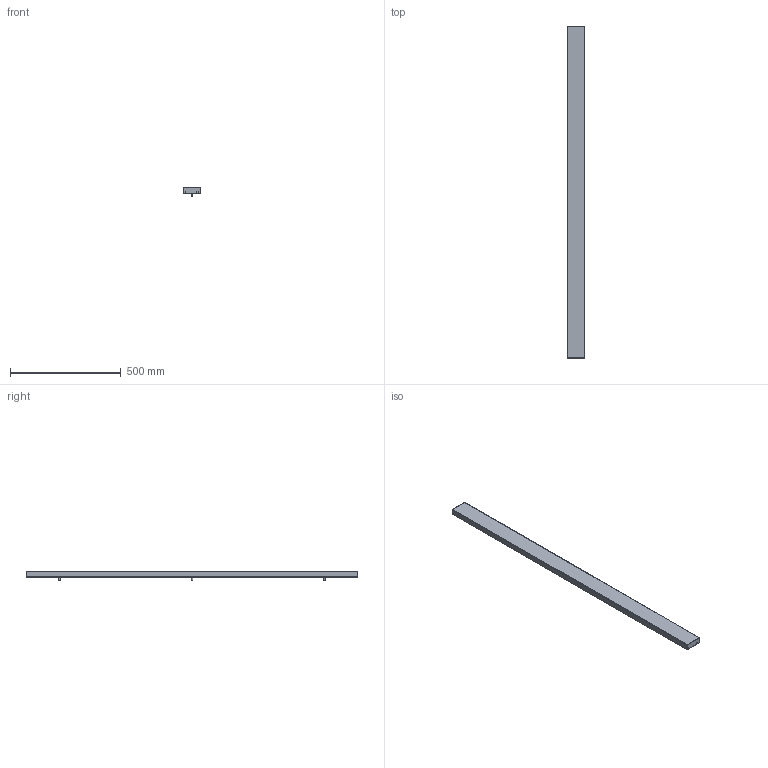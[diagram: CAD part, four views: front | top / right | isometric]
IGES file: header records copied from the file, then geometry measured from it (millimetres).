
Start section: SolidWorks IGES file using NURBS representation for surfaces
Global section: file name: Z:\Modele 3D_WWW\_CAMELEON\PUSZKI WWW\CAMELEON-CANOPY_B_1500_8610_8608_8560_8558\CANOPY_B_1500_8610_8608_8560_8558.IGS; native system: SolidWorks 2021; preprocessor: SolidWorks 2021; author: gabriela.tworek; date: 220301.101848; units: millimetre
Bounding box: 80 x 1501.6 x 42.34 mm (x, y, z)
Surface area: 689690.1 mm2 (no closed solid volume)
Topology: 0 solids, 0 shells, 105 faces, 427 edges, 424 vertices
Faces by surface type: bspline 105
